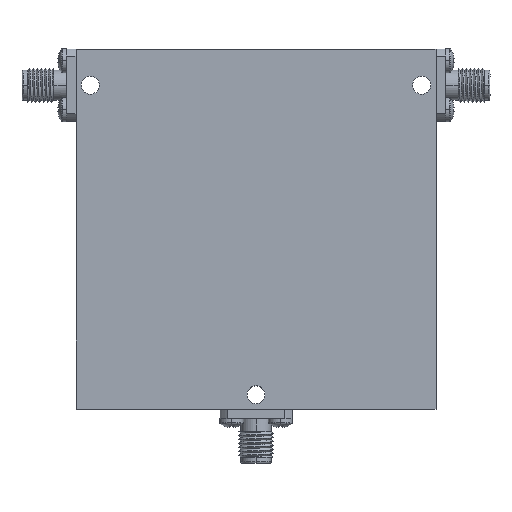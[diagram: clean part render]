
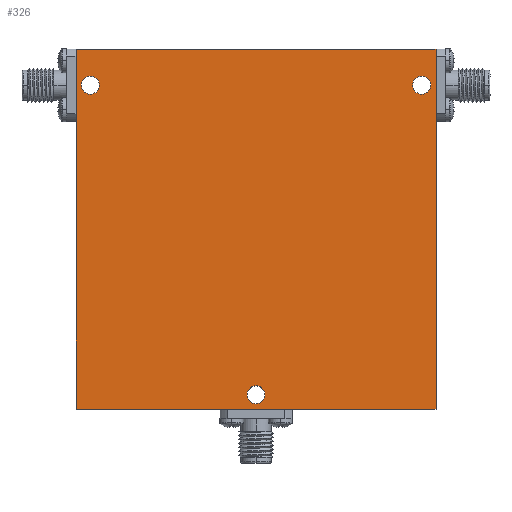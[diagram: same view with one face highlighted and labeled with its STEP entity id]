
A CAD part, top view. The second image highlights one B-rep face of the part: STEP entity #326.
In plain terms, the highlighted planar face has unit normal (0, 0, 1).
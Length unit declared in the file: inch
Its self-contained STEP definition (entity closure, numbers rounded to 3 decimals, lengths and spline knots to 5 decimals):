
#4 = CIRCLE ( 'NONE', #2038, 0.0625 ) ;
#15 = DIRECTION ( 'NONE',  ( 0., 0., 1. ) ) ;
#74 = CARTESIAN_POINT ( 'NONE',  ( 1.0875, 1., 0.275 ) ) ;
#88 = CARTESIAN_POINT ( 'NONE',  ( -1.25, 1.25, 0.275 ) ) ;
#90 = DIRECTION ( 'NONE',  ( 1., 0., 0. ) ) ;
#96 = VERTEX_POINT ( 'NONE', #74 ) ;
#126 = AXIS2_PLACEMENT_3D ( 'NONE', #2370, #1513, #144 ) ;
#144 = DIRECTION ( 'NONE',  ( 1., 0., 0. ) ) ;
#225 = CIRCLE ( 'NONE', #1294, 0.0625 ) ;
#268 = LINE ( 'NONE', #349, #577 ) ;
#286 = ORIENTED_EDGE ( 'NONE', *, *, #2657, .F. ) ;
#296 = DIRECTION ( 'NONE',  ( 1., 0., 0. ) ) ;
#314 = EDGE_CURVE ( 'NONE', #1238, #1590, #4, .T. ) ;
#326 = ADVANCED_FACE ( 'NONE', ( #1698, #922, #3175, #708 ), #650, .T. ) ;
#337 = CARTESIAN_POINT ( 'NONE',  ( -1.15, 1., 0.275 ) ) ;
#349 = CARTESIAN_POINT ( 'NONE',  ( -1.25, 1.25, 0.275 ) ) ;
#366 = VERTEX_POINT ( 'NONE', #88 ) ;
#412 = DIRECTION ( 'NONE',  ( 0., 0., 1. ) ) ;
#421 = VERTEX_POINT ( 'NONE', #2900 ) ;
#539 = DIRECTION ( 'NONE',  ( 0., 0., 1. ) ) ;
#554 = VERTEX_POINT ( 'NONE', #3541 ) ;
#577 = VECTOR ( 'NONE', #622, 39.37008 ) ;
#587 = VERTEX_POINT ( 'NONE', #2728 ) ;
#610 = CARTESIAN_POINT ( 'NONE',  ( 1.25, 1.25, 0.275 ) ) ;
#622 = DIRECTION ( 'NONE',  ( 0., -1., 0. ) ) ;
#650 = PLANE ( 'NONE',  #2105 ) ;
#677 = DIRECTION ( 'NONE',  ( 0., 1., 0. ) ) ;
#708 = FACE_OUTER_BOUND ( 'NONE', #2463, .T. ) ;
#723 = EDGE_LOOP ( 'NONE', ( #1546, #2684 ) ) ;
#841 = VECTOR ( 'NONE', #2894, 39.37008 ) ;
#914 = DIRECTION ( 'NONE',  ( 1., 0., 0. ) ) ;
#922 = FACE_BOUND ( 'NONE', #723, .T. ) ;
#929 = CARTESIAN_POINT ( 'NONE',  ( 0., -1.15, 0.275 ) ) ;
#1042 = EDGE_CURVE ( 'NONE', #421, #96, #1673, .T. ) ;
#1059 = ORIENTED_EDGE ( 'NONE', *, *, #1242, .F. ) ;
#1115 = EDGE_CURVE ( 'NONE', #366, #587, #268, .T. ) ;
#1178 = VERTEX_POINT ( 'NONE', #2852 ) ;
#1238 = VERTEX_POINT ( 'NONE', #2265 ) ;
#1242 = EDGE_CURVE ( 'NONE', #1178, #2510, #225, .T. ) ;
#1274 = VECTOR ( 'NONE', #677, 39.37008 ) ;
#1294 = AXIS2_PLACEMENT_3D ( 'NONE', #3081, #1436, #3368 ) ;
#1352 = CIRCLE ( 'NONE', #2210, 0.0625 ) ;
#1398 = CIRCLE ( 'NONE', #1581, 0.0625 ) ;
#1436 = DIRECTION ( 'NONE',  ( 0., 0., 1. ) ) ;
#1511 = CARTESIAN_POINT ( 'NONE',  ( -1.0875, 1., 0.275 ) ) ;
#1513 = DIRECTION ( 'NONE',  ( 0., 0., 1. ) ) ;
#1532 = DIRECTION ( 'NONE',  ( 1., 0., 0. ) ) ;
#1546 = ORIENTED_EDGE ( 'NONE', *, *, #314, .F. ) ;
#1581 = AXIS2_PLACEMENT_3D ( 'NONE', #1679, #15, #296 ) ;
#1590 = VERTEX_POINT ( 'NONE', #3259 ) ;
#1673 = CIRCLE ( 'NONE', #1800, 0.0625 ) ;
#1679 = CARTESIAN_POINT ( 'NONE',  ( 1.15, 1., 0.275 ) ) ;
#1698 = FACE_BOUND ( 'NONE', #1730, .T. ) ;
#1730 = EDGE_LOOP ( 'NONE', ( #3527, #286 ) ) ;
#1760 = CARTESIAN_POINT ( 'NONE',  ( -1.25, -1.25, 0.275 ) ) ;
#1800 = AXIS2_PLACEMENT_3D ( 'NONE', #1933, #539, #2520 ) ;
#1814 = ORIENTED_EDGE ( 'NONE', *, *, #1115, .T. ) ;
#1933 = CARTESIAN_POINT ( 'NONE',  ( 1.15, 1., 0.275 ) ) ;
#2038 = AXIS2_PLACEMENT_3D ( 'NONE', #929, #412, #1532 ) ;
#2044 = DIRECTION ( 'NONE',  ( 0., 0., 1. ) ) ;
#2055 = CARTESIAN_POINT ( 'NONE',  ( 1.25, 1.25, 0.275 ) ) ;
#2093 = CARTESIAN_POINT ( 'NONE',  ( 0., 0., 0.275 ) ) ;
#2105 = AXIS2_PLACEMENT_3D ( 'NONE', #2093, #2044, #914 ) ;
#2189 = VECTOR ( 'NONE', #3442, 39.37008 ) ;
#2192 = EDGE_CURVE ( 'NONE', #554, #2891, #2493, .T. ) ;
#2210 = AXIS2_PLACEMENT_3D ( 'NONE', #337, #2347, #90 ) ;
#2236 = LINE ( 'NONE', #2867, #841 ) ;
#2265 = CARTESIAN_POINT ( 'NONE',  ( 0.0625, -1.15, 0.275 ) ) ;
#2347 = DIRECTION ( 'NONE',  ( 0., 0., 1. ) ) ;
#2369 = CIRCLE ( 'NONE', #126, 0.0625 ) ;
#2370 = CARTESIAN_POINT ( 'NONE',  ( 0., -1.15, 0.275 ) ) ;
#2463 = EDGE_LOOP ( 'NONE', ( #2561, #2868, #1814, #3336 ) ) ;
#2490 = EDGE_CURVE ( 'NONE', #2891, #366, #2236, .T. ) ;
#2493 = LINE ( 'NONE', #2055, #1274 ) ;
#2495 = EDGE_CURVE ( 'NONE', #2510, #1178, #1352, .T. ) ;
#2510 = VERTEX_POINT ( 'NONE', #1511 ) ;
#2520 = DIRECTION ( 'NONE',  ( 1., 0., 0. ) ) ;
#2561 = ORIENTED_EDGE ( 'NONE', *, *, #2192, .T. ) ;
#2657 = EDGE_CURVE ( 'NONE', #96, #421, #1398, .T. ) ;
#2684 = ORIENTED_EDGE ( 'NONE', *, *, #3019, .F. ) ;
#2728 = CARTESIAN_POINT ( 'NONE',  ( -1.25, -1.25, 0.275 ) ) ;
#2852 = CARTESIAN_POINT ( 'NONE',  ( -1.2125, 1., 0.275 ) ) ;
#2867 = CARTESIAN_POINT ( 'NONE',  ( -1.25, 1.25, 0.275 ) ) ;
#2868 = ORIENTED_EDGE ( 'NONE', *, *, #2490, .T. ) ;
#2891 = VERTEX_POINT ( 'NONE', #610 ) ;
#2894 = DIRECTION ( 'NONE',  ( -1., 0., 0. ) ) ;
#2900 = CARTESIAN_POINT ( 'NONE',  ( 1.2125, 1., 0.275 ) ) ;
#3019 = EDGE_CURVE ( 'NONE', #1590, #1238, #2369, .T. ) ;
#3081 = CARTESIAN_POINT ( 'NONE',  ( -1.15, 1., 0.275 ) ) ;
#3160 = EDGE_LOOP ( 'NONE', ( #3464, #1059 ) ) ;
#3175 = FACE_BOUND ( 'NONE', #3160, .T. ) ;
#3217 = LINE ( 'NONE', #1760, #2189 ) ;
#3259 = CARTESIAN_POINT ( 'NONE',  ( -0.0625, -1.15, 0.275 ) ) ;
#3336 = ORIENTED_EDGE ( 'NONE', *, *, #3484, .T. ) ;
#3368 = DIRECTION ( 'NONE',  ( 1., 0., 0. ) ) ;
#3442 = DIRECTION ( 'NONE',  ( 1., 0., 0. ) ) ;
#3464 = ORIENTED_EDGE ( 'NONE', *, *, #2495, .F. ) ;
#3484 = EDGE_CURVE ( 'NONE', #587, #554, #3217, .T. ) ;
#3527 = ORIENTED_EDGE ( 'NONE', *, *, #1042, .F. ) ;
#3541 = CARTESIAN_POINT ( 'NONE',  ( 1.25, -1.25, 0.275 ) ) ;
